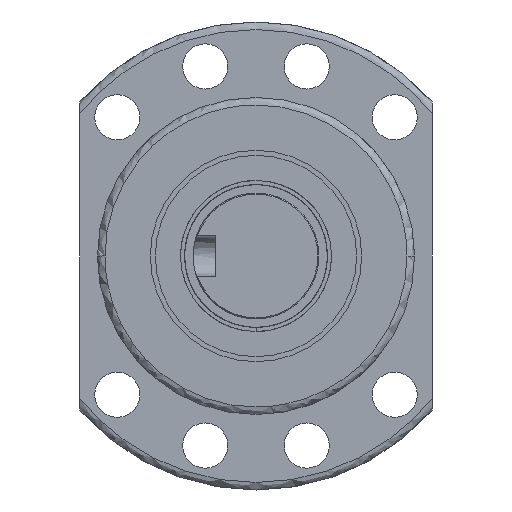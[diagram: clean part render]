
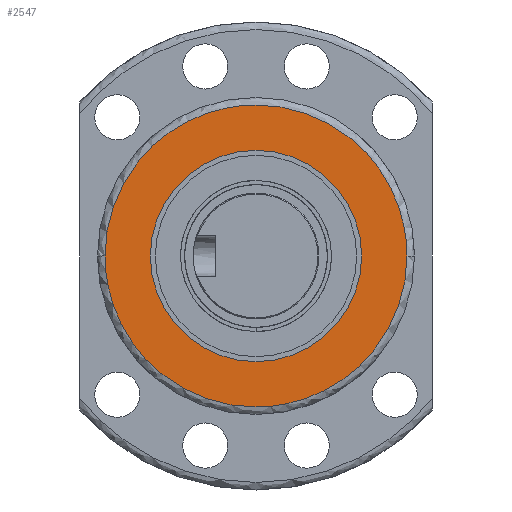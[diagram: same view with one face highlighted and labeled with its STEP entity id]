
A CAD part, left-side view. The second image highlights one B-rep face of the part: STEP entity #2547.
In plain terms, the highlighted planar face has unit normal (-1, 0, 0).
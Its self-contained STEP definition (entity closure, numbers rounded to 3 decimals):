
#104 = DIRECTION ( 'NONE',  ( 0., 1., 0. ) ) ;
#233 = CARTESIAN_POINT ( 'NONE',  ( -113., 0., 30. ) ) ;
#264 = CARTESIAN_POINT ( 'NONE',  ( -113., 17.574, 30. ) ) ;
#383 = EDGE_LOOP ( 'NONE', ( #3299, #5465, #1633, #3175 ) ) ;
#398 = FACE_BOUND ( 'NONE', #4996, .T. ) ;
#523 = CARTESIAN_POINT ( 'NONE',  ( -113., 0., 0. ) ) ;
#635 = PLANE ( 'NONE',  #6692 ) ;
#764 = VERTEX_POINT ( 'NONE', #3987 ) ;
#840 = VERTEX_POINT ( 'NONE', #884 ) ;
#884 = CARTESIAN_POINT ( 'NONE',  ( -113., -30., 0. ) ) ;
#1132 = CARTESIAN_POINT ( 'NONE',  ( -113., 0., -30. ) ) ;
#1633 = ORIENTED_EDGE ( 'NONE', *, *, #3016, .F. ) ;
#1672 = CARTESIAN_POINT ( 'NONE',  ( -113., 26.5, 0. ) ) ;
#1970 = DIRECTION ( 'NONE',  ( 0., 0., 1. ) ) ;
#2027 = CARTESIAN_POINT ( 'NONE',  ( -113., -17.574, -30. ) ) ;
#2061 = CARTESIAN_POINT ( 'NONE',  ( -113., 0., -30. ) ) ;
#2068 = VERTEX_POINT ( 'NONE', #6306 ) ;
#2083 = CIRCLE ( 'NONE', #3881, 21. ) ;
#2228 = EDGE_CURVE ( 'NONE', #3523, #840, #5113, .T. ) ;
#2240 = AXIS2_PLACEMENT_3D ( 'NONE', #2914, #3982, #1970 ) ;
#2257 = CARTESIAN_POINT ( 'NONE',  ( -113., 30., 0. ) ) ;
#2272 = EDGE_CURVE ( 'NONE', #764, #2068, #3132, .T. ) ;
#2547 = ADVANCED_FACE ( 'NONE', ( #398, #6504 ), #635, .F. ) ;
#2789 = DIRECTION ( 'NONE',  ( 0., 0., 1. ) ) ;
#2914 = CARTESIAN_POINT ( 'NONE',  ( -113., 0., 0. ) ) ;
#2961 = CARTESIAN_POINT ( 'NONE',  ( -113., 30., 17.574 ) ) ;
#3016 = EDGE_CURVE ( 'NONE', #840, #764, #5069, .T. ) ;
#3132 =( BOUNDED_CURVE ( )  B_SPLINE_CURVE ( 3, ( #1132, #3279, #5402, #2257 ),
 .UNSPECIFIED., .F., .T. ) 
 B_SPLINE_CURVE_WITH_KNOTS ( ( 4, 4 ),
 ( 0., 1. ),
 .UNSPECIFIED. ) 
 CURVE ( )  GEOMETRIC_REPRESENTATION_ITEM ( )  RATIONAL_B_SPLINE_CURVE ( ( 1., 0.805, 0.805, 1. ) ) 
 REPRESENTATION_ITEM ( '' )  );
#3175 = ORIENTED_EDGE ( 'NONE', *, *, #2228, .F. ) ;
#3279 = CARTESIAN_POINT ( 'NONE',  ( -113., 17.574, -30. ) ) ;
#3299 = ORIENTED_EDGE ( 'NONE', *, *, #4683, .F. ) ;
#3301 = EDGE_CURVE ( 'NONE', #6796, #6945, #2083, .T. ) ;
#3303 = CARTESIAN_POINT ( 'NONE',  ( -113., 0., 21. ) ) ;
#3523 = VERTEX_POINT ( 'NONE', #233 ) ;
#3600 = CARTESIAN_POINT ( 'NONE',  ( -113., 30., 0. ) ) ;
#3774 = CARTESIAN_POINT ( 'NONE',  ( -113., -30., 17.574 ) ) ;
#3783 = DIRECTION ( 'NONE',  ( -1., 0., 0. ) ) ;
#3825 = DIRECTION ( 'NONE',  ( 1., 0., 0. ) ) ;
#3841 = CARTESIAN_POINT ( 'NONE',  ( -113., 0., 30. ) ) ;
#3858 =( BOUNDED_CURVE ( )  B_SPLINE_CURVE ( 3, ( #3600, #2961, #264, #5117 ),
 .UNSPECIFIED., .F., .T. ) 
 B_SPLINE_CURVE_WITH_KNOTS ( ( 4, 4 ),
 ( 0., 1. ),
 .UNSPECIFIED. ) 
 CURVE ( )  GEOMETRIC_REPRESENTATION_ITEM ( )  RATIONAL_B_SPLINE_CURVE ( ( 1., 0.805, 0.805, 1. ) ) 
 REPRESENTATION_ITEM ( '' )  );
#3881 = AXIS2_PLACEMENT_3D ( 'NONE', #523, #3783, #2789 ) ;
#3982 = DIRECTION ( 'NONE',  ( -1., 0., 0. ) ) ;
#3987 = CARTESIAN_POINT ( 'NONE',  ( -113., 0., -30. ) ) ;
#4300 = CARTESIAN_POINT ( 'NONE',  ( -113., -17.574, 30. ) ) ;
#4379 = CIRCLE ( 'NONE', #2240, 21. ) ;
#4679 = ORIENTED_EDGE ( 'NONE', *, *, #5061, .F. ) ;
#4683 = EDGE_CURVE ( 'NONE', #2068, #3523, #3858, .T. ) ;
#4739 = CARTESIAN_POINT ( 'NONE',  ( -113., -30., -17.574 ) ) ;
#4996 = EDGE_LOOP ( 'NONE', ( #4679, #5224 ) ) ;
#5061 = EDGE_CURVE ( 'NONE', #6945, #6796, #4379, .T. ) ;
#5069 =( BOUNDED_CURVE ( )  B_SPLINE_CURVE ( 3, ( #5232, #4739, #2027, #2061 ),
 .UNSPECIFIED., .F., .F. ) 
 B_SPLINE_CURVE_WITH_KNOTS ( ( 4, 4 ),
 ( 0., 1. ),
 .UNSPECIFIED. ) 
 CURVE ( )  GEOMETRIC_REPRESENTATION_ITEM ( )  RATIONAL_B_SPLINE_CURVE ( ( 1., 0.805, 0.805, 1. ) ) 
 REPRESENTATION_ITEM ( '' )  );
#5113 =( BOUNDED_CURVE ( )  B_SPLINE_CURVE ( 3, ( #3841, #4300, #3774, #5470 ),
 .UNSPECIFIED., .F., .T. ) 
 B_SPLINE_CURVE_WITH_KNOTS ( ( 4, 4 ),
 ( 0., 1. ),
 .UNSPECIFIED. ) 
 CURVE ( )  GEOMETRIC_REPRESENTATION_ITEM ( )  RATIONAL_B_SPLINE_CURVE ( ( 1., 0.805, 0.805, 1. ) ) 
 REPRESENTATION_ITEM ( '' )  );
#5117 = CARTESIAN_POINT ( 'NONE',  ( -113., 0., 30. ) ) ;
#5224 = ORIENTED_EDGE ( 'NONE', *, *, #3301, .F. ) ;
#5232 = CARTESIAN_POINT ( 'NONE',  ( -113., -30., 0. ) ) ;
#5402 = CARTESIAN_POINT ( 'NONE',  ( -113., 30., -17.574 ) ) ;
#5465 = ORIENTED_EDGE ( 'NONE', *, *, #2272, .F. ) ;
#5470 = CARTESIAN_POINT ( 'NONE',  ( -113., -30., 0. ) ) ;
#6306 = CARTESIAN_POINT ( 'NONE',  ( -113., 30., 0. ) ) ;
#6504 = FACE_OUTER_BOUND ( 'NONE', #383, .T. ) ;
#6672 = CARTESIAN_POINT ( 'NONE',  ( -113., 0., -21. ) ) ;
#6692 = AXIS2_PLACEMENT_3D ( 'NONE', #1672, #3825, #104 ) ;
#6796 = VERTEX_POINT ( 'NONE', #6672 ) ;
#6945 = VERTEX_POINT ( 'NONE', #3303 ) ;
